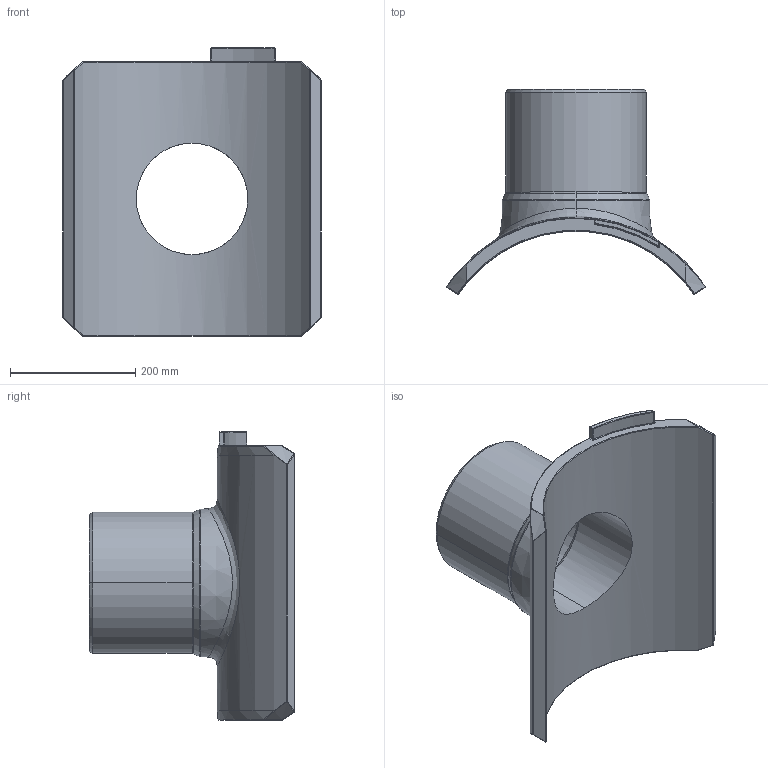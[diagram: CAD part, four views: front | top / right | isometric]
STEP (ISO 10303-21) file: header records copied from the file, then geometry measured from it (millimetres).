
FILE_DESCRIPTION((''),'2;1');
FILE_NAME('SA-UNI_D450_225_01','2024-10-29T13:41:20',('mikulicp'),(''),'CREO PARAMETRIC BY PTC INC, 2024133','CREO PARAMETRIC BY PTC INC, 2024133','');
FILE_SCHEMA(('AP242_MANAGED_MODEL_BASED_3D_ENGINEERING_MIM_LF { 1 0 10303 442 1 1 4 }'));
Length unit declared in the file: millimetre
Products named in the file (2): SA-UNI_D450_225_01; PE100
Bounding box: 412.52 x 327.37 x 460 mm (x, y, z)
Volume: 7144598.9 mm3; surface area: 677053.9 mm2
Topology: 1 solids, 1 shells, 240 faces, 578 edges, 356 vertices
Faces by surface type: bspline 77, plane 66, cylinder 48, sphere 21, torus 16, cone 12
Entity records: 15001 total; most frequent: CARTESIAN_POINT 6915, ORIENTED_EDGE 1156, DIRECTION 878, PRESENTATION_STYLE_ASSIGNMENT 590, STYLED_ITEM 579, CURVE_STYLE 578, EDGE_CURVE 578, VERTEX_POINT 356
